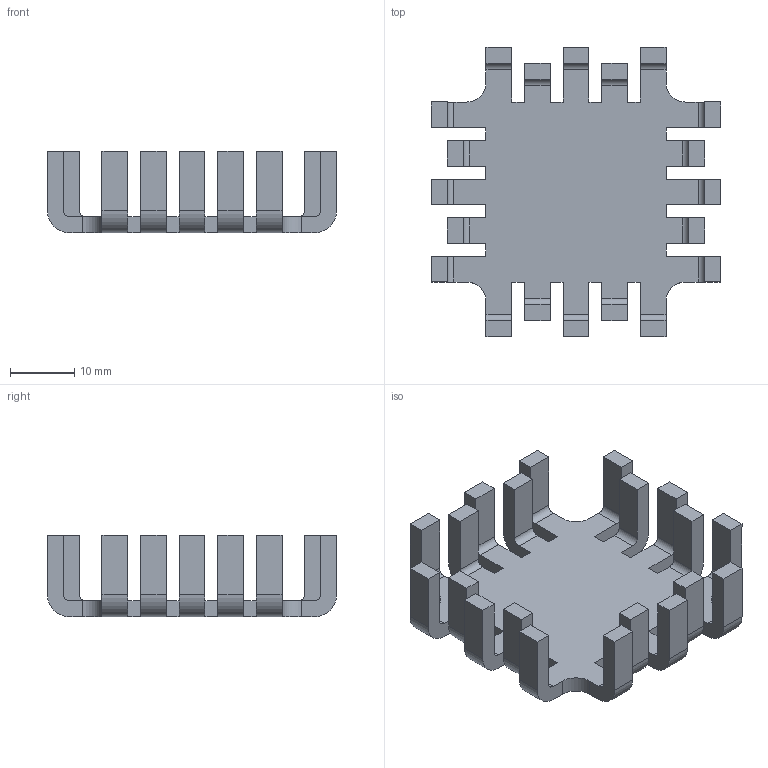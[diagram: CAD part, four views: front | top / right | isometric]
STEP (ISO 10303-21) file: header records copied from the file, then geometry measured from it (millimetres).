
FILE_DESCRIPTION((''),'2;1');
FILE_NAME('O:\Internetdaten\f.cool\Kapitel C\FK\FK - STEP\FK_202_SA.stp','2014-01-31T15:09:46',('lochen'),(''),'Autodesk Inventor 2012','Autodesk Inventor 2012','');
FILE_SCHEMA(('AUTOMOTIVE_DESIGN { 1 0 10303 214 1 1 1 1 }'));
Length unit declared in the file: millimetre
Products named in the file (1): FK_202_SA
Bounding box: 45 x 45 x 12.7 mm (x, y, z)
Volume: 5326.2 mm3; surface area: 6201.5 mm2
Topology: 1 solids, 1 shells, 162 faces, 480 edges, 320 vertices
Faces by surface type: plane 118, cylinder 44
Entity records: 5425 total; most frequent: CARTESIAN_POINT 963, ORIENTED_EDGE 960, DIRECTION 894, EDGE_CURVE 480, VECTOR 392, LINE 392, VERTEX_POINT 320, AXIS2_PLACEMENT_3D 251
